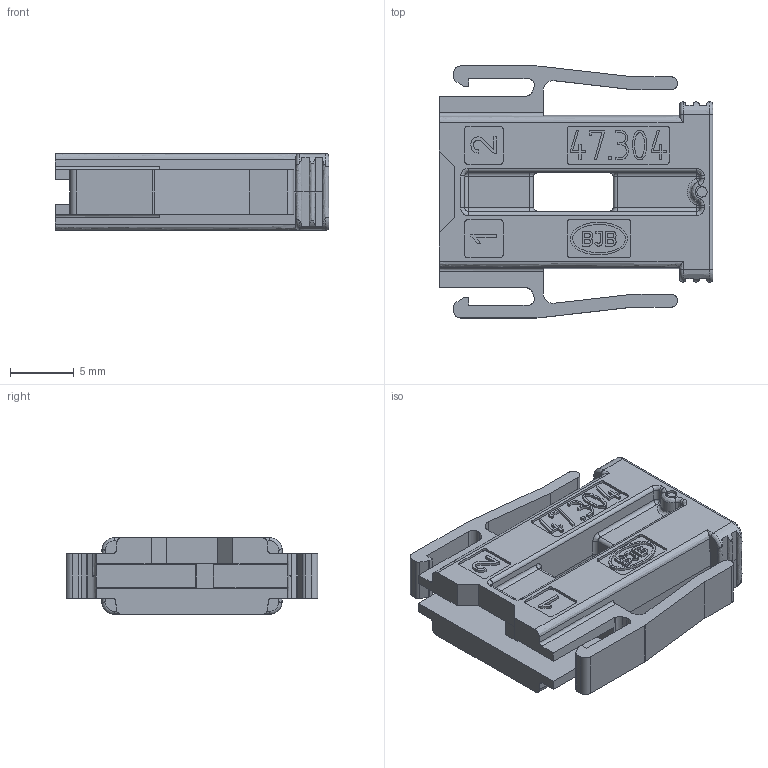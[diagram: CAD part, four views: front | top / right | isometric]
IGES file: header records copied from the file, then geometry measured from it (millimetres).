
Start section: C
Global section: file name: 024-S01-03.igs; native system: By Siemens PLM Incorporated; preprocessor: XPlus GENERIC/IGES 23.0.61; author: Author; organization: Title; date: 20240625.101747; units: millimetre
Bounding box: 21.4 x 19.7 x 6 mm (x, y, z)
Volume: 1338.2 mm3; surface area: 1684.4 mm2
Topology: 1 solids, 1 shells, 394 faces, 1001 edges, 624 vertices
Faces by surface type: bspline 394
